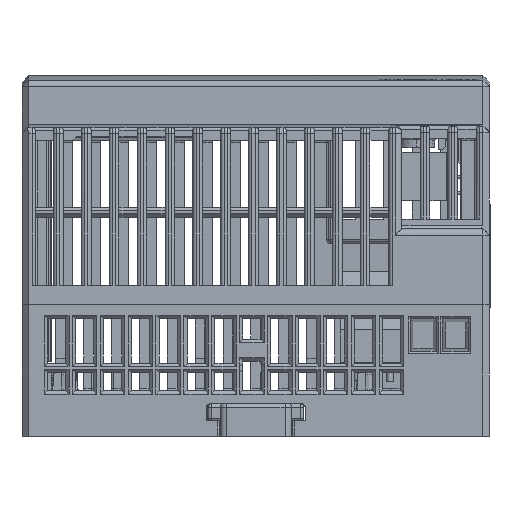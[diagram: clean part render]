
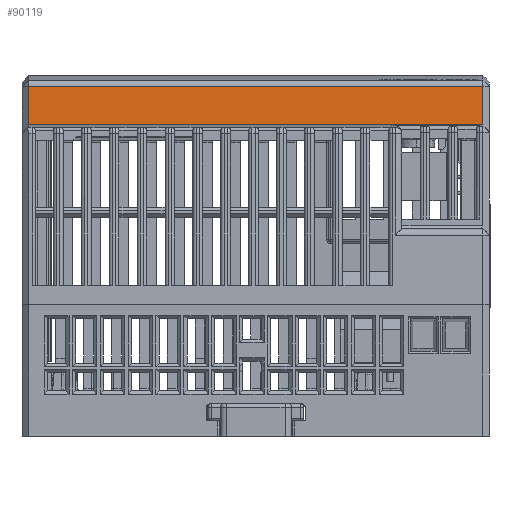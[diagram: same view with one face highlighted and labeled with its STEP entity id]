
A CAD part, front view. The second image highlights one B-rep face of the part: STEP entity #90119.
In plain terms, the highlighted planar face has unit normal (0, -0.999, 0.034) as drawn and (-0.034, 0, 0.999) by its records, which use the part's own axes.
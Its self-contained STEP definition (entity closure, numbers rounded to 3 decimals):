
#5815 = VECTOR ( 'NONE', #38850, 1000. ) ;
#9187 = EDGE_LOOP ( 'NONE', ( #99478, #97347, #135886, #69646 ) ) ;
#9332 = CARTESIAN_POINT ( 'NONE',  ( -15.995, 1., -22.739 ) ) ;
#9560 = DIRECTION ( 'NONE',  ( -0.999, 0., -0.034 ) ) ;
#9895 = EDGE_CURVE ( 'NONE', #52024, #91148, #67762, .T. ) ;
#19039 = FACE_OUTER_BOUND ( 'NONE', #9187, .T. ) ;
#21138 = DIRECTION ( 'NONE',  ( 0.999, 0., 0.034 ) ) ;
#26457 = LINE ( 'NONE', #9332, #90397 ) ;
#37898 = AXIS2_PLACEMENT_3D ( 'NONE', #134971, #42002, #9560 ) ;
#38850 = DIRECTION ( 'NONE',  ( 0., -1., 0. ) ) ;
#40688 = EDGE_CURVE ( 'NONE', #91148, #60748, #88087, .T. ) ;
#41895 = DIRECTION ( 'NONE',  ( 0., -1., 0. ) ) ;
#42002 = DIRECTION ( 'NONE',  ( 0.034, 0., -0.999 ) ) ;
#48780 = EDGE_CURVE ( 'NONE', #60748, #96272, #26457, .T. ) ;
#51101 = CARTESIAN_POINT ( 'NONE',  ( -21.963, 72., -22.944 ) ) ;
#52024 = VERTEX_POINT ( 'NONE', #106236 ) ;
#60748 = VERTEX_POINT ( 'NONE', #129983 ) ;
#61439 = LINE ( 'NONE', #122126, #5815 ) ;
#67762 = LINE ( 'NONE', #79586, #120212 ) ;
#69646 = ORIENTED_EDGE ( 'NONE', *, *, #9895, .T. ) ;
#73590 = PLANE ( 'NONE',  #37898 ) ;
#79586 = CARTESIAN_POINT ( 'NONE',  ( -15.995, 71., -22.739 ) ) ;
#88087 = LINE ( 'NONE', #51101, #114144 ) ;
#89748 = DIRECTION ( 'NONE',  ( -0.999, 0., -0.034 ) ) ;
#90119 = ADVANCED_FACE ( 'NONE', ( #19039 ), #73590, .F. ) ;
#90397 = VECTOR ( 'NONE', #21138, 1000. ) ;
#91148 = VERTEX_POINT ( 'NONE', #105365 ) ;
#96272 = VERTEX_POINT ( 'NONE', #134333 ) ;
#97347 = ORIENTED_EDGE ( 'NONE', *, *, #48780, .T. ) ;
#99478 = ORIENTED_EDGE ( 'NONE', *, *, #40688, .T. ) ;
#105293 = EDGE_CURVE ( 'NONE', #52024, #96272, #61439, .T. ) ;
#105365 = CARTESIAN_POINT ( 'NONE',  ( -21.963, 71., -22.944 ) ) ;
#106236 = CARTESIAN_POINT ( 'NONE',  ( -15.995, 71., -22.739 ) ) ;
#114144 = VECTOR ( 'NONE', #41895, 1000. ) ;
#120212 = VECTOR ( 'NONE', #89748, 1000. ) ;
#122126 = CARTESIAN_POINT ( 'NONE',  ( -15.995, 72., -22.739 ) ) ;
#129983 = CARTESIAN_POINT ( 'NONE',  ( -21.963, 1., -22.944 ) ) ;
#134333 = CARTESIAN_POINT ( 'NONE',  ( -15.995, 1., -22.739 ) ) ;
#134971 = CARTESIAN_POINT ( 'NONE',  ( -15.995, 72., -22.739 ) ) ;
#135886 = ORIENTED_EDGE ( 'NONE', *, *, #105293, .F. ) ;
